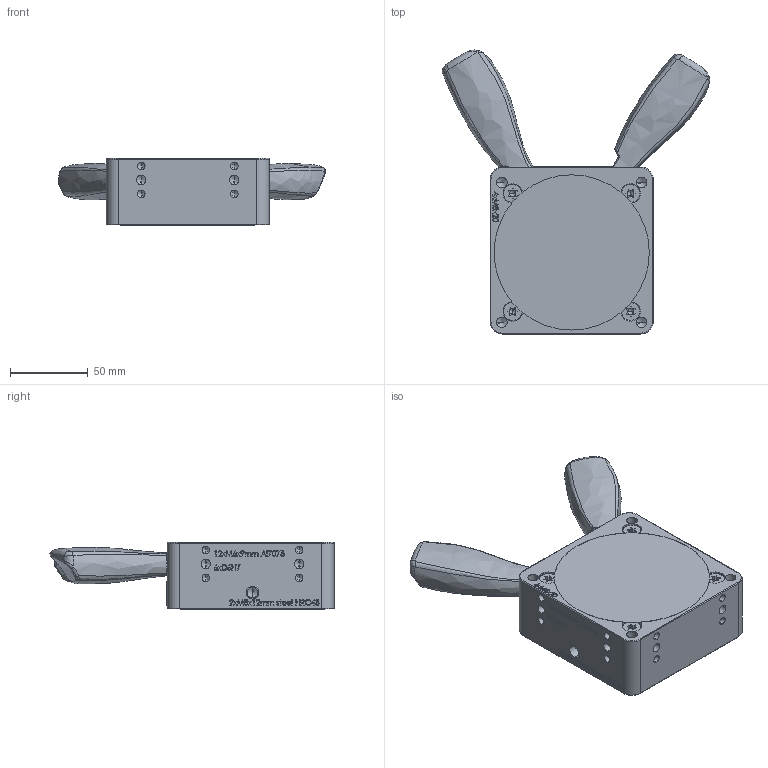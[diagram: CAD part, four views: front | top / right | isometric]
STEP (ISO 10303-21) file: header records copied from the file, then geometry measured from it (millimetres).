
FILE_DESCRIPTION (( 'STEP AP214' ), '1' );
FILE_NAME ('41200 TMC600 FreeCAD Haftmagnet rev01.STEP', '2017-02-06T15:46:02', ( '' ), ( '' ), 'SwSTEP 2.0', 'SolidWorks 2014', '' );
FILE_SCHEMA (( 'AUTOMOTIVE_DESIGN' ));
Length unit declared in the file: millimetre
Products named in the file (5): FreeCAD189414396 TMC600 ON-OFF Aufkleber rev00; ON-OFF handle; FreeCADDIN7991-M6x35-A4-TX30 Senkkopfschraube_DIN 7991 - M6 x 25 --- 18.7C; TMC600 Magnet Base rev02; 41200 TMC600 FreeCAD Haftmagnet rev01
Assembly tree (8 placements, depth 2):
  41200 TMC600 FreeCAD Haftmagnet rev01
    TMC600 Magnet Base rev02
    FreeCADDIN7991-M6x35-A4-TX30 Senkkopfschraube_DIN 7991 - M6 x 25 --- 18.7C  x4
    ON-OFF handle  x2
    FreeCAD189414396 TMC600 ON-OFF Aufkleber rev00
Bounding box: 172.16 x 182.94 x 43.5 mm (x, y, z)
Volume: 547681.2 mm3; surface area: 72885.6 mm2
Topology: 8 solids, 8 shells, 1164 faces, 3051 edges, 1994 vertices
Faces by surface type: plane 548, bspline 293, cylinder 211, cone 96, torus 16
Entity records: 47573 total; most frequent: CARTESIAN_POINT 23892, ORIENTED_EDGE 5214, DIRECTION 3773, EDGE_CURVE 2607, VERTEX_POINT 1734, VECTOR 1669, LINE 1669, EDGE_LOOP 1115
